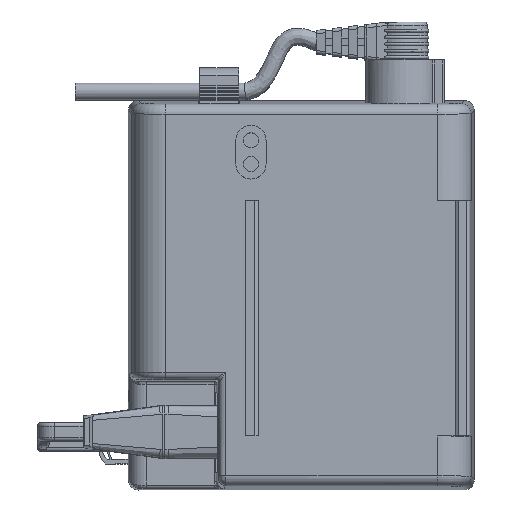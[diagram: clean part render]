
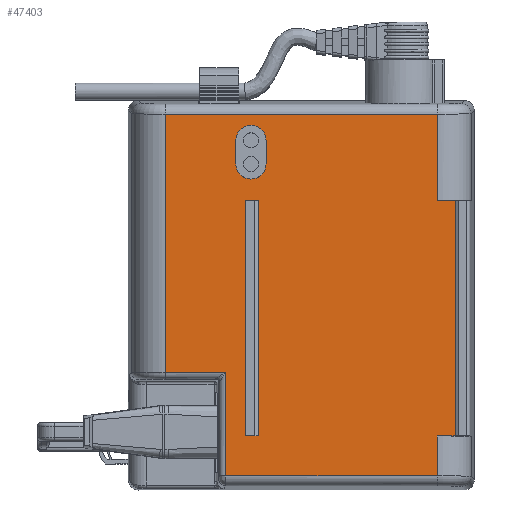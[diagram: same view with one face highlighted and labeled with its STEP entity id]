
A CAD part, top view. The second image highlights one B-rep face of the part: STEP entity #47403.
In plain terms, the highlighted planar face has unit normal (0, 0, 1).
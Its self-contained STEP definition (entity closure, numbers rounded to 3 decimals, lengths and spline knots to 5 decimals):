
#3754=DIRECTION('',(1.,0.,0.));
#3755=VECTOR('',#3754,0.018);
#3756=CARTESIAN_POINT('',(-0.0645,0.03552,
-0.02186));
#3757=LINE('',#3756,#3755);
#3767=DIRECTION('',(0.,-1.,0.));
#3768=VECTOR('',#3767,0.0673);
#3769=CARTESIAN_POINT('',(0.02368,0.08385,
-0.02186));
#3770=LINE('',#3769,#3768);
#3771=DIRECTION('',(0.,1.,0.));
#3772=VECTOR('',#3771,0.007);
#3773=CARTESIAN_POINT('',(-0.03447,0.09755,
-0.02186));
#3774=LINE('',#3773,#3772);
#3775=CARTESIAN_POINT('',(-0.03897,0.10455,
-0.02186));
#3776=DIRECTION('',(0.,0.,1.));
#3777=DIRECTION('',(1.,0.,0.));
#3778=AXIS2_PLACEMENT_3D('',#3775,#3776,#3777);
#3780=CARTESIAN_POINT('',(-0.03897,0.10455,
-0.02186));
#3781=DIRECTION('',(0.,0.,1.));
#3782=DIRECTION('',(0.,1.,0.));
#3783=AXIS2_PLACEMENT_3D('',#3780,#3781,#3782);
#3785=DIRECTION('',(0.,-1.,0.));
#3786=VECTOR('',#3785,0.007);
#3787=CARTESIAN_POINT('',(-0.04347,0.10455,
-0.02186));
#3788=LINE('',#3787,#3786);
#3789=CARTESIAN_POINT('',(-0.03897,0.09755,
-0.02186));
#3790=DIRECTION('',(0.,0.,1.));
#3791=DIRECTION('',(-1.,0.,0.));
#3792=AXIS2_PLACEMENT_3D('',#3789,#3790,#3791);
#3794=CARTESIAN_POINT('',(-0.03897,0.09755,
-0.02186));
#3795=DIRECTION('',(0.,0.,1.));
#3796=DIRECTION('',(0.,-1.,0.));
#3797=AXIS2_PLACEMENT_3D('',#3794,#3795,#3796);
#3799=DIRECTION('',(0.,1.,0.));
#3800=VECTOR('',#3799,0.0027);
#3801=CARTESIAN_POINT('',(-0.03677,0.08385,
-0.02186));
#3802=LINE('',#3801,#3800);
#3803=DIRECTION('',(-1.,0.,0.));
#3804=VECTOR('',#3803,0.00385);
#3805=CARTESIAN_POINT('',(-0.03677,0.08655,
-0.02186));
#3806=LINE('',#3805,#3804);
#3807=DIRECTION('',(0.,-1.,0.));
#3808=VECTOR('',#3807,0.07);
#3809=CARTESIAN_POINT('',(-0.04062,0.08655,
-0.02186));
#3810=LINE('',#3809,#3808);
#3811=DIRECTION('',(1.,0.,0.));
#3812=VECTOR('',#3811,0.002);
#3813=CARTESIAN_POINT('',(-0.04062,0.01655,
-0.02186));
#3814=LINE('',#3813,#3812);
#3815=DIRECTION('',(0.,1.,0.));
#3816=VECTOR('',#3815,0.0673);
#3817=CARTESIAN_POINT('',(-0.03862,0.01655,
-0.02186));
#3818=LINE('',#3817,#3816);
#3819=DIRECTION('',(1.,0.,0.));
#3820=VECTOR('',#3819,0.00185);
#3821=CARTESIAN_POINT('',(-0.03862,0.08385,
-0.02186));
#3822=LINE('',#3821,#3820);
#3827=DIRECTION('',(1.,0.,0.));
#3828=VECTOR('',#3827,0.06307);
#3829=CARTESIAN_POINT('',(-0.04651,0.0047,
-0.02186));
#3830=LINE('',#3829,#3828);
#3869=DIRECTION('',(0.,-1.,0.));
#3870=VECTOR('',#3869,0.03082);
#3871=CARTESIAN_POINT('',(-0.04651,0.03552,
-0.02186));
#3872=LINE('',#3871,#3870);
#3924=DIRECTION('',(0.,1.,0.));
#3925=VECTOR('',#3924,0.01185);
#3926=CARTESIAN_POINT('',(0.01656,0.0047,
-0.02186));
#3927=LINE('',#3926,#3925);
#3981=DIRECTION('',(1.,0.,0.));
#3982=VECTOR('',#3981,0.00712);
#3983=CARTESIAN_POINT('',(0.01656,0.01655,
-0.02186));
#3984=LINE('',#3983,#3982);
#3985=DIRECTION('',(-1.,0.,0.));
#3986=VECTOR('',#3985,0.00185);
#3987=CARTESIAN_POINT('',(0.02368,0.08385,
-0.02186));
#3988=LINE('',#3987,#3986);
#4009=DIRECTION('',(0.,1.,0.));
#4010=VECTOR('',#4009,0.0027);
#4011=CARTESIAN_POINT('',(0.02183,0.08385,
-0.02186));
#4012=LINE('',#4011,#4010);
#4046=DIRECTION('',(-1.,0.,0.));
#4047=VECTOR('',#4046,0.00527);
#4048=CARTESIAN_POINT('',(0.02183,0.08655,
-0.02186));
#4049=LINE('',#4048,#4047);
#4067=DIRECTION('',(0.,1.,0.));
#4068=VECTOR('',#4067,0.02585);
#4069=CARTESIAN_POINT('',(0.01656,0.08655,
-0.02186));
#4070=LINE('',#4069,#4068);
#4095=DIRECTION('',(-1.,0.,0.));
#4096=VECTOR('',#4095,0.08107);
#4097=CARTESIAN_POINT('',(0.01656,0.1124,
-0.02186));
#4098=LINE('',#4097,#4096);
#30764=DIRECTION('',(0.,-1.,0.));
#30765=VECTOR('',#30764,0.07689);
#30766=CARTESIAN_POINT('',(-0.0645,0.1124,
-0.02186));
#30767=LINE('',#30766,#30765);
#37493=CARTESIAN_POINT('',(-0.0645,0.03552,
-0.02186));
#37494=CARTESIAN_POINT('',(-0.04651,0.03552,
-0.02186));
#37495=VERTEX_POINT('',#37493);
#37496=VERTEX_POINT('',#37494);
#37497=CARTESIAN_POINT('',(-0.04651,0.0047,
-0.02186));
#37498=CARTESIAN_POINT('',(0.01656,0.0047,
-0.02186));
#37499=VERTEX_POINT('',#37497);
#37500=VERTEX_POINT('',#37498);
#37501=CARTESIAN_POINT('',(-0.0645,0.1124,
-0.02186));
#37502=VERTEX_POINT('',#37501);
#37503=CARTESIAN_POINT('',(0.01656,0.1124,
-0.02186));
#37504=VERTEX_POINT('',#37503);
#37505=CARTESIAN_POINT('',(0.01656,0.08655,
-0.02186));
#37506=VERTEX_POINT('',#37505);
#37507=CARTESIAN_POINT('',(0.02183,0.08655,
-0.02186));
#37508=VERTEX_POINT('',#37507);
#37509=CARTESIAN_POINT('',(0.02183,0.08385,
-0.02186));
#37510=VERTEX_POINT('',#37509);
#37511=CARTESIAN_POINT('',(0.02368,0.08385,
-0.02186));
#37512=VERTEX_POINT('',#37511);
#37513=CARTESIAN_POINT('',(0.02368,0.01655,
-0.02186));
#37514=VERTEX_POINT('',#37513);
#37515=CARTESIAN_POINT('',(0.01656,0.01655,
-0.02186));
#37516=VERTEX_POINT('',#37515);
#37517=CARTESIAN_POINT('',(-0.03447,0.09755,
-0.02186));
#37518=CARTESIAN_POINT('',(-0.03447,0.10455,
-0.02186));
#37519=VERTEX_POINT('',#37517);
#37520=VERTEX_POINT('',#37518);
#37521=CARTESIAN_POINT('',(-0.03897,0.10905,
-0.02186));
#37522=VERTEX_POINT('',#37521);
#37523=CARTESIAN_POINT('',(-0.04347,0.10455,
-0.02186));
#37524=VERTEX_POINT('',#37523);
#37525=CARTESIAN_POINT('',(-0.04347,0.09755,
-0.02186));
#37526=VERTEX_POINT('',#37525);
#37527=CARTESIAN_POINT('',(-0.03897,0.09305,
-0.02186));
#37528=VERTEX_POINT('',#37527);
#37529=CARTESIAN_POINT('',(-0.03677,0.08385,
-0.02186));
#37530=CARTESIAN_POINT('',(-0.03677,0.08655,
-0.02186));
#37531=VERTEX_POINT('',#37529);
#37532=VERTEX_POINT('',#37530);
#37533=CARTESIAN_POINT('',(-0.04062,0.08655,
-0.02186));
#37534=VERTEX_POINT('',#37533);
#37535=CARTESIAN_POINT('',(-0.04062,0.01655,
-0.02186));
#37536=VERTEX_POINT('',#37535);
#37537=CARTESIAN_POINT('',(-0.03862,0.01655,
-0.02186));
#37538=VERTEX_POINT('',#37537);
#37539=CARTESIAN_POINT('',(-0.03862,0.08385,
-0.02186));
#37540=VERTEX_POINT('',#37539);
#47345=CARTESIAN_POINT('',(-0.02397,0.05855,
-0.02186));
#47346=DIRECTION('',(0.,0.,-1.));
#47347=DIRECTION('',(0.,1.,0.));
#47348=AXIS2_PLACEMENT_3D('',#47345,#47346,#47347);
#47349=PLANE('',#47348);
#47351=ORIENTED_EDGE('',*,*,#47350,.F.);
#47353=ORIENTED_EDGE('',*,*,#47352,.F.);
#47354=ORIENTED_EDGE('',*,*,#47335,.F.);
#47356=ORIENTED_EDGE('',*,*,#47355,.F.);
#47358=ORIENTED_EDGE('',*,*,#47357,.F.);
#47360=ORIENTED_EDGE('',*,*,#47359,.F.);
#47362=ORIENTED_EDGE('',*,*,#47361,.F.);
#47364=ORIENTED_EDGE('',*,*,#47363,.F.);
#47366=ORIENTED_EDGE('',*,*,#47365,.F.);
#47368=ORIENTED_EDGE('',*,*,#47367,.T.);
#47370=ORIENTED_EDGE('',*,*,#47369,.F.);
#47372=ORIENTED_EDGE('',*,*,#47371,.F.);
#47373=EDGE_LOOP('',(#47351,#47353,#47354,#47356,#47358,#47360,#47362,#47364,
#47366,#47368,#47370,#47372));
#47374=FACE_OUTER_BOUND('',#47373,.F.);
#47376=ORIENTED_EDGE('',*,*,#47375,.T.);
#47378=ORIENTED_EDGE('',*,*,#47377,.T.);
#47380=ORIENTED_EDGE('',*,*,#47379,.T.);
#47382=ORIENTED_EDGE('',*,*,#47381,.T.);
#47384=ORIENTED_EDGE('',*,*,#47383,.T.);
#47386=ORIENTED_EDGE('',*,*,#47385,.T.);
#47387=EDGE_LOOP('',(#47376,#47378,#47380,#47382,#47384,#47386));
#47388=FACE_BOUND('',#47387,.F.);
#47390=ORIENTED_EDGE('',*,*,#47389,.T.);
#47392=ORIENTED_EDGE('',*,*,#47391,.T.);
#47394=ORIENTED_EDGE('',*,*,#47393,.T.);
#47396=ORIENTED_EDGE('',*,*,#47395,.T.);
#47398=ORIENTED_EDGE('',*,*,#47397,.T.);
#47400=ORIENTED_EDGE('',*,*,#47399,.T.);
#47401=EDGE_LOOP('',(#47390,#47392,#47394,#47396,#47398,#47400));
#47402=FACE_BOUND('',#47401,.F.);
#47403=ADVANCED_FACE('',(#47374,#47388,#47402),#47349,.F.);
#3779=CIRCLE('',#3778,0.0045);
#3784=CIRCLE('',#3783,0.0045);
#3793=CIRCLE('',#3792,0.0045);
#3798=CIRCLE('',#3797,0.0045);
#47335=EDGE_CURVE('',#37495,#37496,#3757,.T.);
#47350=EDGE_CURVE('',#37499,#37500,#3830,.T.);
#47352=EDGE_CURVE('',#37496,#37499,#3872,.T.);
#47355=EDGE_CURVE('',#37502,#37495,#30767,.T.);
#47357=EDGE_CURVE('',#37504,#37502,#4098,.T.);
#47359=EDGE_CURVE('',#37506,#37504,#4070,.T.);
#47361=EDGE_CURVE('',#37508,#37506,#4049,.T.);
#47363=EDGE_CURVE('',#37510,#37508,#4012,.T.);
#47365=EDGE_CURVE('',#37512,#37510,#3988,.T.);
#47367=EDGE_CURVE('',#37512,#37514,#3770,.T.);
#47369=EDGE_CURVE('',#37516,#37514,#3984,.T.);
#47371=EDGE_CURVE('',#37500,#37516,#3927,.T.);
#47375=EDGE_CURVE('',#37519,#37520,#3774,.T.);
#47377=EDGE_CURVE('',#37520,#37522,#3779,.T.);
#47379=EDGE_CURVE('',#37522,#37524,#3784,.T.);
#47381=EDGE_CURVE('',#37524,#37526,#3788,.T.);
#47383=EDGE_CURVE('',#37526,#37528,#3793,.T.);
#47385=EDGE_CURVE('',#37528,#37519,#3798,.T.);
#47389=EDGE_CURVE('',#37531,#37532,#3802,.T.);
#47391=EDGE_CURVE('',#37532,#37534,#3806,.T.);
#47393=EDGE_CURVE('',#37534,#37536,#3810,.T.);
#47395=EDGE_CURVE('',#37536,#37538,#3814,.T.);
#47397=EDGE_CURVE('',#37538,#37540,#3818,.T.);
#47399=EDGE_CURVE('',#37540,#37531,#3822,.T.);
